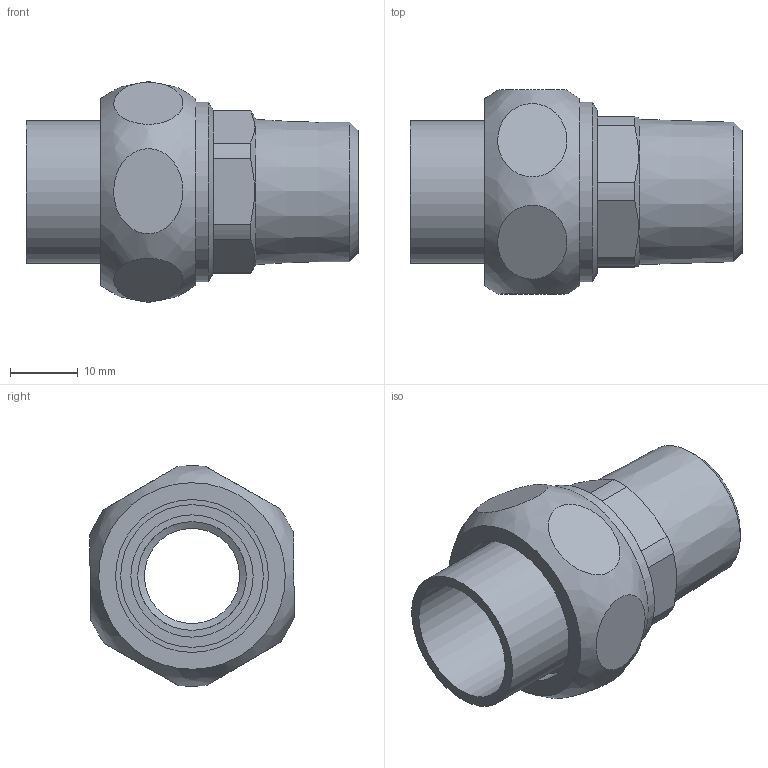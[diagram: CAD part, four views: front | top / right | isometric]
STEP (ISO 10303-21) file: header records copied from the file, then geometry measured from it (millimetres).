
FILE_DESCRIPTION(/* description */ (''),/* implementation_level */ '2;1');
FILE_NAME(/* name */ '\\LG50001\SANHA_Legnica\Engineering\Public\RYSUNKI\SANHA POLSKA\4343\Inventor\stp\143431812.stp',/* time_stamp */ '2016-02-04T11:11:37+01:00',/* author */ ('gomulka'),/* organization */ (''),/* preprocessor_version */ 'ST-DEVELOPER v15.6',/* originating_system */ 'Autodesk Inventor 2015',/* authorisation */ '');
FILE_SCHEMA (('AUTOMOTIVE_DESIGN { 1 0 10303 214 3 1 1 }'));
Length unit declared in the file: millimetre
Products named in the file (4): 14381_18-34; 14374_34(2); 14386g_12-34(2); 143431812
Assembly tree (3 placements, depth 2):
  143431812
    14381_18-34
    14374_34(2)
    14386g_12-34(2)
Bounding box: 48.86 x 30.09 x 32.5 mm (x, y, z)
Volume: 13370.4 mm3; surface area: 9911.4 mm2
Topology: 3 solids, 3 shells, 52 faces, 100 edges, 62 vertices
Faces by surface type: plane 27, cylinder 16, cone 7, torus 1, bspline 1
Full cylindrical faces by diameter (mm): 14 x1, 16 x2, 18 x1, 21 x2, 22.5 x1, 23.5 x1, 24.117 x1, 26.44 x1
Entity records: 1659 total; most frequent: CARTESIAN_POINT 584, DIRECTION 228, ORIENTED_EDGE 160, AXIS2_PLACEMENT_3D 105, EDGE_LOOP 84, EDGE_CURVE 80, VERTEX_POINT 60, FACE_OUTER_BOUND 52
